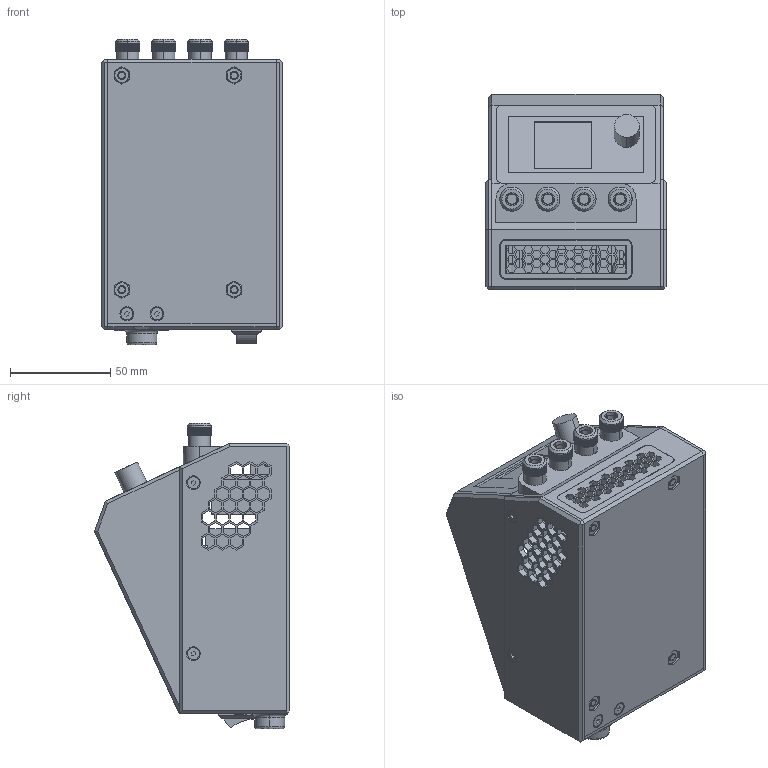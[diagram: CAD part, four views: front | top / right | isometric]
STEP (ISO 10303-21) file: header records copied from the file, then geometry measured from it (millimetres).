
FILE_DESCRIPTION (( 'STEP AP214' ), '1' );
FILE_NAME ('LabPower.STEP', '2019-11-16T20:13:50', ( 'lcvdveen@outlook.com' ), ( '' ), 'SwSTEP 2.0', 'SolidWorks 2019', '' );
FILE_SCHEMA (( 'AUTOMOTIVE_DESIGN' ));
Length unit declared in the file: millimetre
Products named in the file (18): Hex Nut DIN 934_Nut M4; Step_down_converter_constant_current_module; 80x10mm_fan; LM2596_DC_step_down_converter; Banana_connector_female_Black; Banana_connector_female_RED; 10A_rocker_switch; Washer DIN125A A2 _Washer M4; Din 7991 A2__3_8; Hex Nut DIN 934_Nut M3; 110_and_220_to_36v_5A_converter; Din 7991 A2__3_16; Washer DIN125A A2 _Washer M3; LabPower; Din 7991 A2__3_20; LP-Base; Socket Head Cap Screw DIN912_M4X8 H; Din 7991 A2__3_12
Assembly tree (52 placements, depth 2):
  LabPower
    10A_rocker_switch
    110_and_220_to_36v_5A_converter
    80x10mm_fan
    Banana_connector_female_Black  x2
    Banana_connector_female_RED  x2
    Din 7991 A2__3_16  x4
    Din 7991 A2__3_20  x2
    Din 7991 A2__3_8  x6
    Din 7991 A2__3_12  x2
    Hex Nut DIN 934_Nut M3  x12
    Hex Nut DIN 934_Nut M4  x4
    LM2596_DC_step_down_converter
    LP-Base
    Socket Head Cap Screw DIN912_M4X8 H  x4
    Step_down_converter_constant_current_module
    Washer DIN125A A2 _Washer M3  x4
    Washer DIN125A A2 _Washer M4  x4
Bounding box: 90 x 97.47 x 152.4 mm (x, y, z)
Volume: 321997 mm3; surface area: 211229 mm2
Topology: 61 solids, 61 shells, 3705 faces, 10110 edges, 6615 vertices
Faces by surface type: plane 2960, cylinder 428, cone 306, bspline 9, torus 2
Entity records: 97646 total; most frequent: CARTESIAN_POINT 17548, ORIENTED_EDGE 15564, DIRECTION 14115, EDGE_CURVE 7782, VECTOR 6787, LINE 6787, VERTEX_POINT 5139, AXIS2_PLACEMENT_3D 3664
